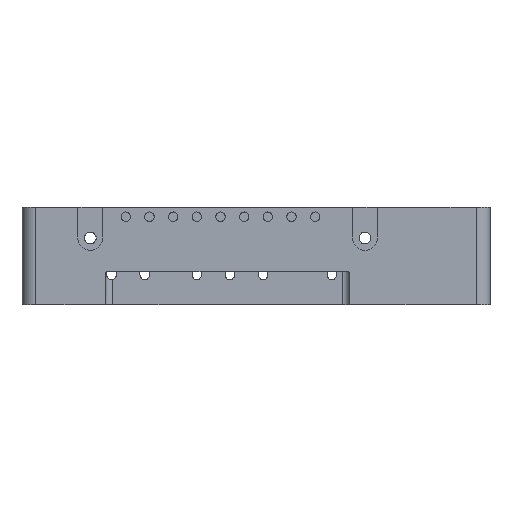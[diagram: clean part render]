
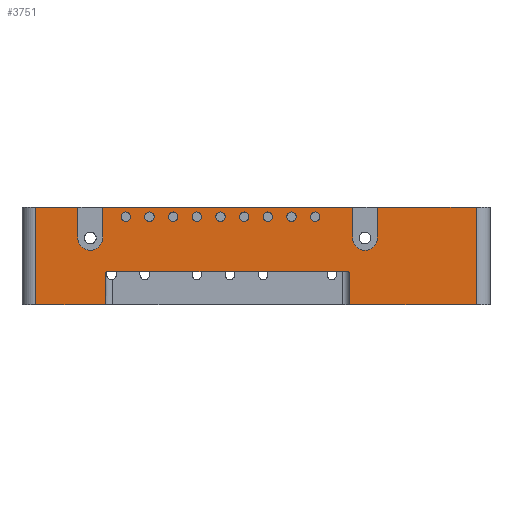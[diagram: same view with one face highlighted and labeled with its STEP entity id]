
A CAD part, front view. The second image highlights one B-rep face of the part: STEP entity #3751.
In plain terms, the highlighted planar face has unit normal (0, -1, 0).
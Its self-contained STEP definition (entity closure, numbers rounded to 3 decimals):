
#80=FACE_BOUND('',#524,.T.);
#81=FACE_BOUND('',#525,.T.);
#82=FACE_BOUND('',#526,.T.);
#83=FACE_BOUND('',#527,.T.);
#84=FACE_BOUND('',#528,.T.);
#85=FACE_BOUND('',#529,.T.);
#86=FACE_BOUND('',#530,.T.);
#87=FACE_BOUND('',#531,.T.);
#88=FACE_BOUND('',#532,.T.);
#147=PLANE('',#4094);
#284=FACE_OUTER_BOUND('',#523,.T.);
#523=EDGE_LOOP('',(#2999,#3000,#3001,#3002,#3003,#3004,#3005,#3006,#3007,
#3008,#3009,#3010,#3011,#3012,#3013,#3014,#3015,#3016));
#524=EDGE_LOOP('',(#3017));
#525=EDGE_LOOP('',(#3018));
#526=EDGE_LOOP('',(#3019));
#527=EDGE_LOOP('',(#3020));
#528=EDGE_LOOP('',(#3021));
#529=EDGE_LOOP('',(#3022));
#530=EDGE_LOOP('',(#3023));
#531=EDGE_LOOP('',(#3024));
#532=EDGE_LOOP('',(#3025));
#662=CIRCLE('',#3868,0.5);
#665=CIRCLE('',#3873,0.5);
#762=CIRCLE('',#4015,2.6);
#764=CIRCLE('',#4018,2.6);
#805=CIRCLE('',#4095,1.);
#806=CIRCLE('',#4096,1.);
#807=CIRCLE('',#4097,1.);
#808=CIRCLE('',#4098,1.);
#809=CIRCLE('',#4099,1.);
#810=CIRCLE('',#4100,1.);
#811=CIRCLE('',#4101,1.);
#812=CIRCLE('',#4102,1.);
#813=CIRCLE('',#4103,1.);
#862=LINE('',#5363,#1184);
#868=LINE('',#5386,#1190);
#949=LINE('',#6789,#1271);
#958=LINE('',#6816,#1280);
#974=LINE('',#6857,#1296);
#981=LINE('',#6871,#1303);
#984=LINE('',#6878,#1306);
#990=LINE('',#6895,#1312);
#991=LINE('',#6896,#1313);
#998=LINE('',#6920,#1320);
#1041=LINE('',#7085,#1363);
#1042=LINE('',#7089,#1364);
#1043=LINE('',#7090,#1365);
#1044=LINE('',#7091,#1366);
#1184=VECTOR('',#4265,10.);
#1190=VECTOR('',#4277,10.);
#1271=VECTOR('',#4634,10.);
#1280=VECTOR('',#4659,10.);
#1296=VECTOR('',#4695,10.);
#1303=VECTOR('',#4710,10.);
#1306=VECTOR('',#4717,10.);
#1312=VECTOR('',#4731,10.);
#1313=VECTOR('',#4732,10.);
#1320=VECTOR('',#4759,10.);
#1363=VECTOR('',#4886,10.);
#1364=VECTOR('',#4891,10.);
#1365=VECTOR('',#4892,10.);
#1366=VECTOR('',#4893,10.);
#1540=VERTEX_POINT('',#5349);
#1541=VERTEX_POINT('',#5351);
#1545=VERTEX_POINT('',#5361);
#1547=VERTEX_POINT('',#5374);
#1551=VERTEX_POINT('',#5384);
#1709=VERTEX_POINT('',#6785);
#1711=VERTEX_POINT('',#6788);
#1714=VERTEX_POINT('',#6796);
#1717=VERTEX_POINT('',#6803);
#1718=VERTEX_POINT('',#6805);
#1721=VERTEX_POINT('',#6815);
#1736=VERTEX_POINT('',#6855);
#1739=VERTEX_POINT('',#6869);
#1741=VERTEX_POINT('',#6877);
#1748=VERTEX_POINT('',#6893);
#1755=VERTEX_POINT('',#6919);
#1807=VERTEX_POINT('',#7084);
#1808=VERTEX_POINT('',#7088);
#1809=VERTEX_POINT('',#7092);
#1810=VERTEX_POINT('',#7094);
#1811=VERTEX_POINT('',#7096);
#1812=VERTEX_POINT('',#7098);
#1813=VERTEX_POINT('',#7100);
#1814=VERTEX_POINT('',#7102);
#1815=VERTEX_POINT('',#7104);
#1816=VERTEX_POINT('',#7106);
#1817=VERTEX_POINT('',#7108);
#1900=EDGE_CURVE('',#1540,#1541,#662,.T.);
#1906=EDGE_CURVE('',#1540,#1545,#862,.T.);
#1909=EDGE_CURVE('',#1547,#1545,#665,.T.);
#1914=EDGE_CURVE('',#1547,#1551,#868,.T.);
#2122=EDGE_CURVE('',#1711,#1709,#949,.T.);
#2127=EDGE_CURVE('',#1714,#1709,#762,.T.);
#2130=EDGE_CURVE('',#1717,#1718,#764,.T.);
#2135=EDGE_CURVE('',#1721,#1718,#958,.T.);
#2155=EDGE_CURVE('',#1714,#1736,#974,.T.);
#2162=EDGE_CURVE('',#1717,#1739,#981,.T.);
#2165=EDGE_CURVE('',#1711,#1741,#984,.T.);
#2175=EDGE_CURVE('',#1748,#1739,#990,.T.);
#2176=EDGE_CURVE('',#1721,#1736,#991,.T.);
#2188=EDGE_CURVE('',#1755,#1541,#998,.T.);
#2259=EDGE_CURVE('',#1741,#1807,#1041,.T.);
#2261=EDGE_CURVE('',#1808,#1748,#1042,.T.);
#2262=EDGE_CURVE('',#1808,#1755,#1043,.T.);
#2263=EDGE_CURVE('',#1551,#1807,#1044,.T.);
#2264=EDGE_CURVE('',#1809,#1809,#805,.T.);
#2265=EDGE_CURVE('',#1810,#1810,#806,.T.);
#2266=EDGE_CURVE('',#1811,#1811,#807,.T.);
#2267=EDGE_CURVE('',#1812,#1812,#808,.T.);
#2268=EDGE_CURVE('',#1813,#1813,#809,.T.);
#2269=EDGE_CURVE('',#1814,#1814,#810,.T.);
#2270=EDGE_CURVE('',#1815,#1815,#811,.T.);
#2271=EDGE_CURVE('',#1816,#1816,#812,.T.);
#2272=EDGE_CURVE('',#1817,#1817,#813,.T.);
#2999=ORIENTED_EDGE('',*,*,#2155,.T.);
#3000=ORIENTED_EDGE('',*,*,#2176,.F.);
#3001=ORIENTED_EDGE('',*,*,#2135,.T.);
#3002=ORIENTED_EDGE('',*,*,#2130,.F.);
#3003=ORIENTED_EDGE('',*,*,#2162,.T.);
#3004=ORIENTED_EDGE('',*,*,#2175,.F.);
#3005=ORIENTED_EDGE('',*,*,#2261,.F.);
#3006=ORIENTED_EDGE('',*,*,#2262,.T.);
#3007=ORIENTED_EDGE('',*,*,#2188,.T.);
#3008=ORIENTED_EDGE('',*,*,#1900,.F.);
#3009=ORIENTED_EDGE('',*,*,#1906,.T.);
#3010=ORIENTED_EDGE('',*,*,#1909,.F.);
#3011=ORIENTED_EDGE('',*,*,#1914,.T.);
#3012=ORIENTED_EDGE('',*,*,#2263,.T.);
#3013=ORIENTED_EDGE('',*,*,#2259,.F.);
#3014=ORIENTED_EDGE('',*,*,#2165,.F.);
#3015=ORIENTED_EDGE('',*,*,#2122,.T.);
#3016=ORIENTED_EDGE('',*,*,#2127,.F.);
#3017=ORIENTED_EDGE('',*,*,#2264,.T.);
#3018=ORIENTED_EDGE('',*,*,#2265,.T.);
#3019=ORIENTED_EDGE('',*,*,#2266,.T.);
#3020=ORIENTED_EDGE('',*,*,#2267,.T.);
#3021=ORIENTED_EDGE('',*,*,#2268,.T.);
#3022=ORIENTED_EDGE('',*,*,#2269,.T.);
#3023=ORIENTED_EDGE('',*,*,#2270,.T.);
#3024=ORIENTED_EDGE('',*,*,#2271,.T.);
#3025=ORIENTED_EDGE('',*,*,#2272,.T.);
#3751=ADVANCED_FACE('',(#284,#80,#81,#82,#83,#84,#85,#86,#87,#88),#147,
 .T.);
#3868=AXIS2_PLACEMENT_3D('',#5352,#4254,#4255);
#3873=AXIS2_PLACEMENT_3D('',#5376,#4269,#4270);
#4015=AXIS2_PLACEMENT_3D('',#6798,#4642,#4643);
#4018=AXIS2_PLACEMENT_3D('',#6806,#4649,#4650);
#4094=AXIS2_PLACEMENT_3D('',#7087,#4889,#4890);
#4095=AXIS2_PLACEMENT_3D('',#7093,#4894,#4895);
#4096=AXIS2_PLACEMENT_3D('',#7095,#4896,#4897);
#4097=AXIS2_PLACEMENT_3D('',#7097,#4898,#4899);
#4098=AXIS2_PLACEMENT_3D('',#7099,#4900,#4901);
#4099=AXIS2_PLACEMENT_3D('',#7101,#4902,#4903);
#4100=AXIS2_PLACEMENT_3D('',#7103,#4904,#4905);
#4101=AXIS2_PLACEMENT_3D('',#7105,#4906,#4907);
#4102=AXIS2_PLACEMENT_3D('',#7107,#4908,#4909);
#4103=AXIS2_PLACEMENT_3D('',#7109,#4910,#4911);
#4254=DIRECTION('center_axis',(0.,-1.,0.));
#4255=DIRECTION('ref_axis',(-0.707,0.,0.707));
#4265=DIRECTION('',(1.,0.,0.));
#4269=DIRECTION('center_axis',(0.,-1.,0.));
#4270=DIRECTION('ref_axis',(0.707,0.,0.707));
#4277=DIRECTION('',(0.,0.,-1.));
#4634=DIRECTION('',(0.,0.,-1.));
#4642=DIRECTION('center_axis',(0.,-1.,0.));
#4643=DIRECTION('ref_axis',(-0.707,0.,-0.707));
#4649=DIRECTION('center_axis',(0.,-1.,0.));
#4650=DIRECTION('ref_axis',(-0.707,0.,-0.707));
#4659=DIRECTION('',(0.,0.,-1.));
#4695=DIRECTION('',(0.,0.,1.));
#4710=DIRECTION('',(0.,0.,1.));
#4717=DIRECTION('',(1.,0.,0.));
#4731=DIRECTION('',(1.,0.,0.));
#4732=DIRECTION('',(1.,0.,0.));
#4759=DIRECTION('',(0.,0.,1.));
#4886=DIRECTION('',(0.,0.,-1.));
#4889=DIRECTION('center_axis',(0.,-1.,0.));
#4890=DIRECTION('ref_axis',(1.,0.,0.));
#4891=DIRECTION('',(0.,0.,1.));
#4892=DIRECTION('',(1.,0.,0.));
#4893=DIRECTION('',(1.,0.,0.));
#4894=DIRECTION('center_axis',(0.,1.,0.));
#4895=DIRECTION('ref_axis',(1.,0.,0.));
#4896=DIRECTION('center_axis',(0.,1.,0.));
#4897=DIRECTION('ref_axis',(1.,0.,0.));
#4898=DIRECTION('center_axis',(0.,1.,0.));
#4899=DIRECTION('ref_axis',(1.,0.,0.));
#4900=DIRECTION('center_axis',(0.,1.,0.));
#4901=DIRECTION('ref_axis',(1.,0.,0.));
#4902=DIRECTION('center_axis',(0.,1.,0.));
#4903=DIRECTION('ref_axis',(1.,0.,0.));
#4904=DIRECTION('center_axis',(0.,1.,0.));
#4905=DIRECTION('ref_axis',(1.,0.,0.));
#4906=DIRECTION('center_axis',(0.,1.,0.));
#4907=DIRECTION('ref_axis',(1.,0.,0.));
#4908=DIRECTION('center_axis',(0.,1.,0.));
#4909=DIRECTION('ref_axis',(1.,0.,0.));
#4910=DIRECTION('center_axis',(0.,1.,0.));
#4911=DIRECTION('ref_axis',(1.,0.,0.));
#5349=CARTESIAN_POINT('',(-31.3,-30.9,7.));
#5351=CARTESIAN_POINT('',(-31.8,-30.9,6.5));
#5352=CARTESIAN_POINT('Origin',(-31.3,-30.9,6.5));
#5361=CARTESIAN_POINT('',(19.3,-30.9,7.));
#5363=CARTESIAN_POINT('',(-40.6,-30.9,7.));
#5374=CARTESIAN_POINT('',(19.8,-30.9,6.5));
#5376=CARTESIAN_POINT('Origin',(19.3,-30.9,6.5));
#5384=CARTESIAN_POINT('',(19.8,-30.9,0.));
#5386=CARTESIAN_POINT('',(19.8,-30.9,3.5));
#6785=CARTESIAN_POINT('',(25.6,-30.9,14.1));
#6788=CARTESIAN_POINT('',(25.6,-30.9,20.6));
#6789=CARTESIAN_POINT('',(25.6,-30.9,10.3));
#6796=CARTESIAN_POINT('',(20.4,-30.9,14.1));
#6798=CARTESIAN_POINT('Origin',(23.,-30.9,14.1));
#6803=CARTESIAN_POINT('',(-37.6,-30.9,14.1));
#6805=CARTESIAN_POINT('',(-32.4,-30.9,14.1));
#6806=CARTESIAN_POINT('Origin',(-35.,-30.9,14.1));
#6815=CARTESIAN_POINT('',(-32.4,-30.9,20.6));
#6816=CARTESIAN_POINT('',(-32.4,-30.9,10.3));
#6855=CARTESIAN_POINT('',(20.4,-30.9,20.6));
#6857=CARTESIAN_POINT('',(20.4,-30.9,10.3));
#6869=CARTESIAN_POINT('',(-37.6,-30.9,20.6));
#6871=CARTESIAN_POINT('',(-37.6,-30.9,10.3));
#6877=CARTESIAN_POINT('',(46.5,-30.9,20.6));
#6878=CARTESIAN_POINT('',(-49.4,-30.9,20.6));
#6893=CARTESIAN_POINT('',(-46.5,-30.9,20.6));
#6895=CARTESIAN_POINT('',(-49.4,-30.9,20.6));
#6896=CARTESIAN_POINT('',(-49.4,-30.9,20.6));
#6919=CARTESIAN_POINT('',(-31.8,-30.9,0.));
#6920=CARTESIAN_POINT('',(-31.8,-30.9,0.));
#7084=CARTESIAN_POINT('',(46.5,-30.9,0.));
#7085=CARTESIAN_POINT('',(46.5,-30.9,0.));
#7087=CARTESIAN_POINT('Origin',(-49.4,-30.9,0.));
#7088=CARTESIAN_POINT('',(-46.5,-30.9,0.));
#7089=CARTESIAN_POINT('',(-46.5,-30.9,0.));
#7090=CARTESIAN_POINT('',(-49.4,-30.9,0.));
#7091=CARTESIAN_POINT('',(-49.4,-30.9,0.));
#7092=CARTESIAN_POINT('',(-3.5,-30.9,18.6));
#7093=CARTESIAN_POINT('Origin',(-2.5,-30.9,18.6));
#7094=CARTESIAN_POINT('',(-23.5,-30.9,18.6));
#7095=CARTESIAN_POINT('Origin',(-22.5,-30.9,18.6));
#7096=CARTESIAN_POINT('',(-18.5,-30.9,18.6));
#7097=CARTESIAN_POINT('Origin',(-17.5,-30.9,18.6));
#7098=CARTESIAN_POINT('',(1.5,-30.9,18.6));
#7099=CARTESIAN_POINT('Origin',(2.5,-30.9,18.6));
#7100=CARTESIAN_POINT('',(11.5,-30.9,18.6));
#7101=CARTESIAN_POINT('Origin',(12.5,-30.9,18.6));
#7102=CARTESIAN_POINT('',(-8.5,-30.9,18.6));
#7103=CARTESIAN_POINT('Origin',(-7.5,-30.9,18.6));
#7104=CARTESIAN_POINT('',(-28.5,-30.9,18.6));
#7105=CARTESIAN_POINT('Origin',(-27.5,-30.9,18.6));
#7106=CARTESIAN_POINT('',(-13.5,-30.9,18.6));
#7107=CARTESIAN_POINT('Origin',(-12.5,-30.9,18.6));
#7108=CARTESIAN_POINT('',(6.5,-30.9,18.6));
#7109=CARTESIAN_POINT('Origin',(7.5,-30.9,18.6));
